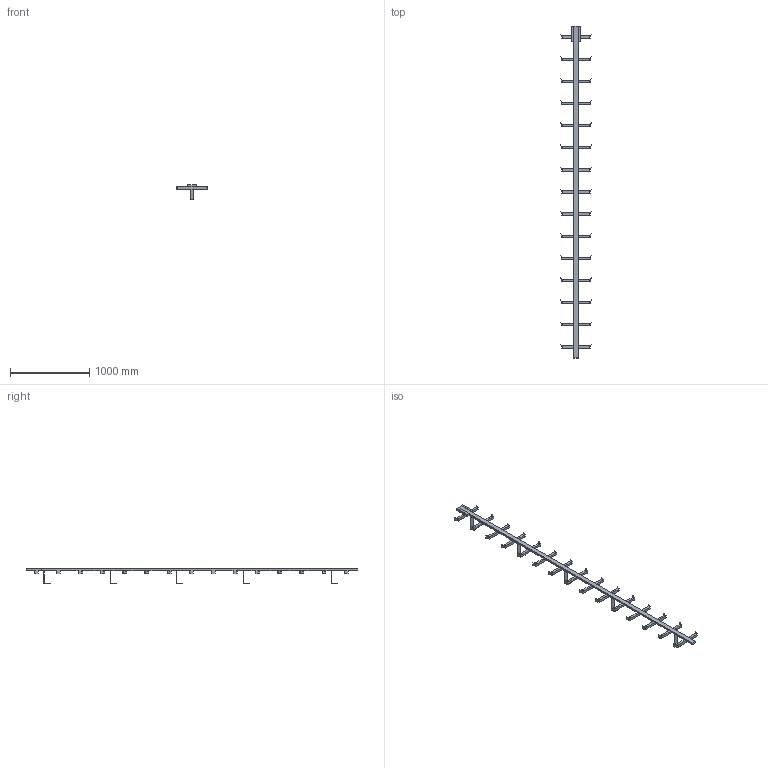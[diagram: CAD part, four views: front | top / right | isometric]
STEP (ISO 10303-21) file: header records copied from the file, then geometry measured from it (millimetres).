
FILE_DESCRIPTION((''),'2;1');
FILE_NAME('017_000114','2017-08-01T',('set'),('HUBER SE'),'PRO/ENGINEER BY PARAMETRIC TECHNOLOGY CORPORATION, 2015280','PRO/ENGINEER BY PARAMETRIC TECHNOLOGY CORPORATION, 2015280','');
FILE_SCHEMA(('CONFIG_CONTROL_DESIGN'));
Length unit declared in the file: millimetre
Products named in the file (1): 017_000114
Bounding box: 394 x 4200 x 195 mm (x, y, z)
Volume: 11278089.4 mm3; surface area: 1552493.8 mm2
Topology: 1 solids, 1 shells, 419 faces, 1275 edges, 863 vertices
Faces by surface type: plane 419
Entity records: 13774 total; most frequent: CARTESIAN_POINT 2598, ORIENTED_EDGE 2348, DIRECTION 2068, VECTOR 1228, LINE 1228, EDGE_CURVE 1174, VERTEX_POINT 762, EDGE_LOOP 424
